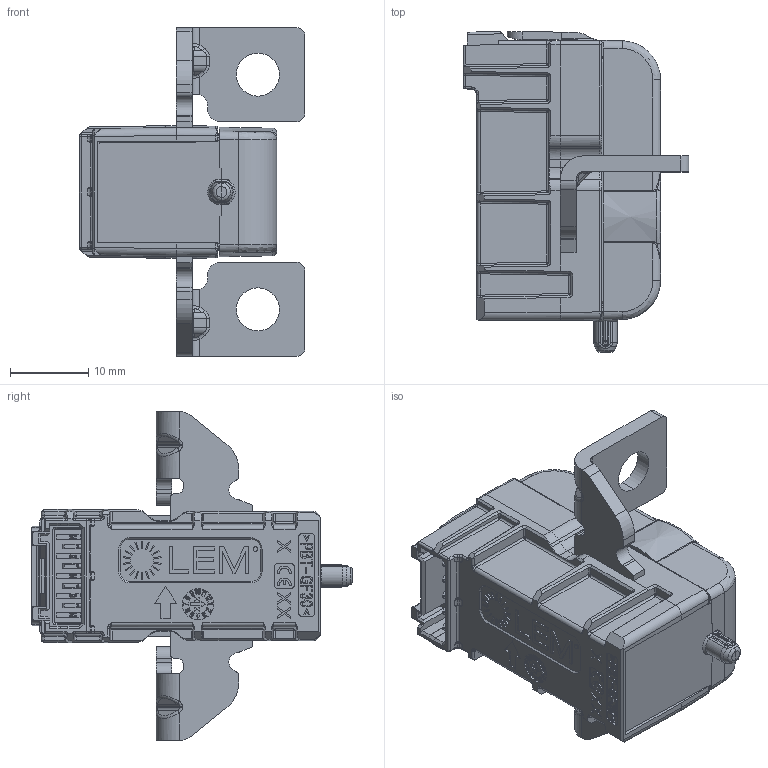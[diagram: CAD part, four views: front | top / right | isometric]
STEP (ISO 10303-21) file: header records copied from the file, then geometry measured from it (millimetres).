
FILE_DESCRIPTION(('Creo Elements/Direct Modeling STEP Export'),'2;1');
FILE_NAME('HAM-250_S04_BBox_MLm_170509.stp','2017-12-06T11:46:02',(''),(''),'PTC Creo Elements/Direct Modeling STEP processor for AP214 (Solid Model)','PTC Creo Elements/Direct Modeling 19.0B 21-Mar-2015 (C) Parametric Technology GmbH','');
FILE_SCHEMA(('AUTOMOTIVE_DESIGN { 1 0 10303 214 1 1 1 1 }'));
Products named in the file (2): HAM-250_S04_BBox_MLm_170509
Assembly tree (1 placements, depth 2):
  HAM-250_S04_BBox_MLm_170509
    HAM-250_S04_BBox_MLm_170509
Bounding box: 28.82 x 40.98 x 42 mm (x, y, z)
Volume: 13205.8 mm3; surface area: 6273.9 mm2
Topology: 1 solids, 2 shells, 1813 faces, 4825 edges, 3068 vertices
Faces by surface type: plane 1181, cylinder 375, bspline 237, torus 10, cone 8, sphere 2
Entity records: 86486 total; most frequent: CARTESIAN_POINT 41477, ORIENTED_EDGE 9616, DIRECTION 7641, EDGE_CURVE 4808, VECTOR 3511, LINE 3511, VERTEX_POINT 3069, AXIS2_PLACEMENT_3D 2065
